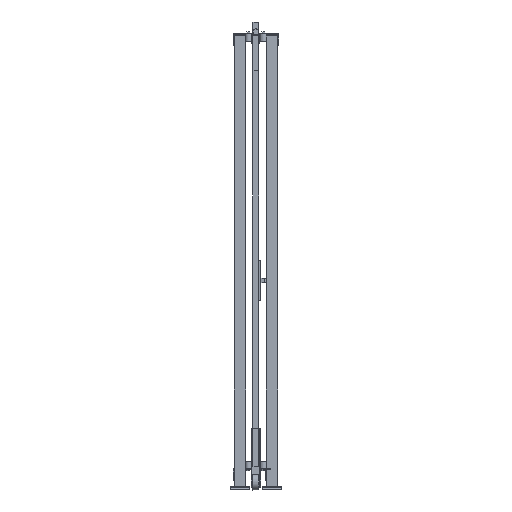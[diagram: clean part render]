
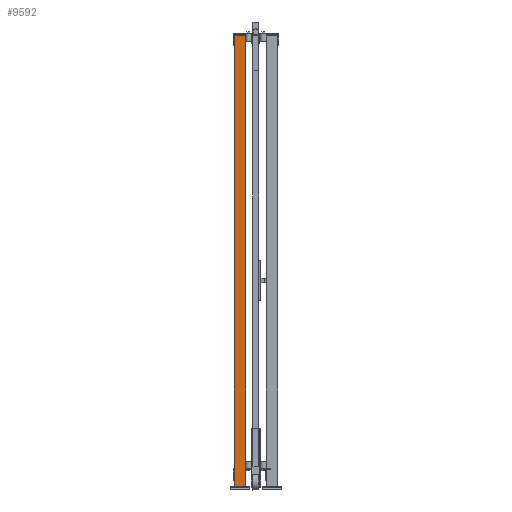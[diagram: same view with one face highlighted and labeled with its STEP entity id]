
A CAD part, left-side view. The second image highlights one B-rep face of the part: STEP entity #9592.
In plain terms, the highlighted planar face has unit normal (-1, 0, 0) as drawn and (0, 1, 0) by its records, which use the part's own axes.
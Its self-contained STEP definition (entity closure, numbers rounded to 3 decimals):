
#986=FACE_OUTER_BOUND('',#1708,.T.);
#1708=EDGE_LOOP('',(#5942,#5943,#5944,#5945));
#2519=VERTEX_POINT('',#19993);
#2520=VERTEX_POINT('',#19995);
#2522=VERTEX_POINT('',#20001);
#2525=VERTEX_POINT('',#20006);
#3879=EDGE_CURVE('',#2519,#2520,#11161,.T.);
#3885=EDGE_CURVE('',#2525,#2522,#11167,.T.);
#3888=EDGE_CURVE('',#2520,#2525,#11170,.T.);
#3889=EDGE_CURVE('',#2519,#2522,#11171,.T.);
#5942=ORIENTED_EDGE('',*,*,#3889,.T.);
#5943=ORIENTED_EDGE('',*,*,#3885,.F.);
#5944=ORIENTED_EDGE('',*,*,#3888,.F.);
#5945=ORIENTED_EDGE('',*,*,#3879,.F.);
#8938=PLANE('',#14305);
#9592=ADVANCED_FACE('',(#986),#8938,.F.);
#11161=LINE('',#19996,#12831);
#11167=LINE('',#20008,#12837);
#11170=LINE('',#20013,#12840);
#11171=LINE('',#20015,#12841);
#12831=VECTOR('',#15853,1.);
#12837=VECTOR('',#15861,1.);
#12840=VECTOR('',#15868,1.);
#12841=VECTOR('',#15871,1.);
#14305=AXIS2_PLACEMENT_3D('',#20014,#15869,#15870);
#15853=DIRECTION('',(-1.,0.,0.));
#15861=DIRECTION('',(1.,0.,0.));
#15868=DIRECTION('',(0.,0.,-1.));
#15869=DIRECTION('center_axis',(0.,-1.,0.));
#15870=DIRECTION('ref_axis',(0.,0.,-1.));
#15871=DIRECTION('',(0.,0.,-1.));
#19993=CARTESIAN_POINT('',(30.,30.,2320.));
#19995=CARTESIAN_POINT('',(-30.,30.,2320.));
#19996=CARTESIAN_POINT('',(0.,30.,2320.));
#20001=CARTESIAN_POINT('',(30.,30.,20.));
#20006=CARTESIAN_POINT('',(-30.,30.,20.));
#20008=CARTESIAN_POINT('',(0.,30.,20.));
#20013=CARTESIAN_POINT('',(-30.,30.,1170.));
#20014=CARTESIAN_POINT('Origin',(0.,30.,
1170.));
#20015=CARTESIAN_POINT('',(30.,30.,1170.));
